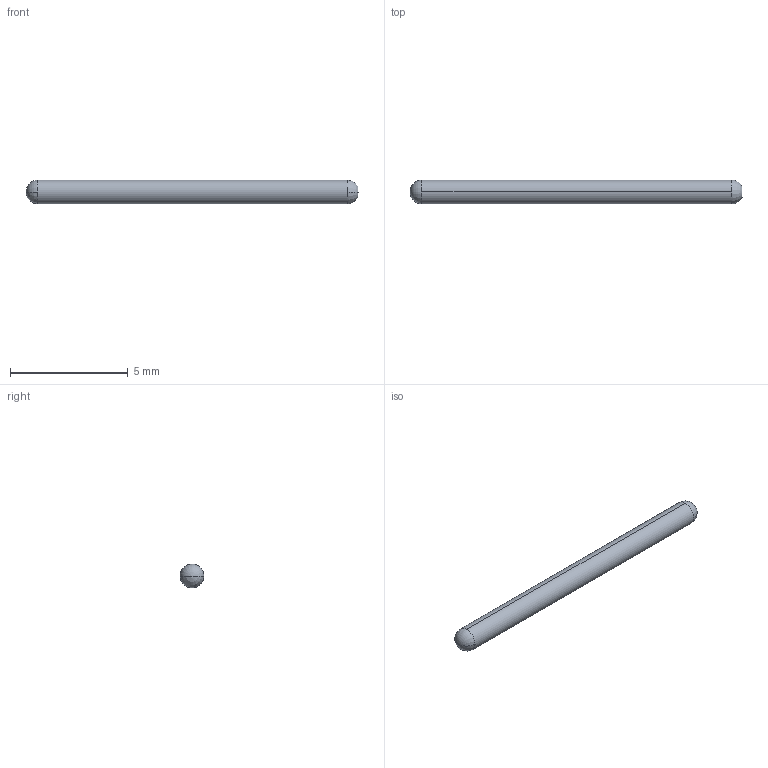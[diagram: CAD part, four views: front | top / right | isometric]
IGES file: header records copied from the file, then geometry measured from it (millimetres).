
Start section: SolidWorks IGES file using analytic representation for surfaces
Global section: file name: Z:\probe solid model mockups\Solidworks models\IGES Files\HPA-1\HPA-1D Full.IGS; native system: SolidWorks 2006 by SolidWorks Corporation; preprocessor: SolidWorks 2006 by SolidWorks Corporation; author: tsakatani; date: 071220.111921; units: inch
Bounding box: 14.1 x 1.02 x 1.02 mm (x, y, z)
Surface area: 45.2 mm2 (no closed solid volume)
Topology: 0 solids, 0 shells, 7 faces, 48 edges, 46 vertices
Faces by surface type: revolution 6, bspline 1
